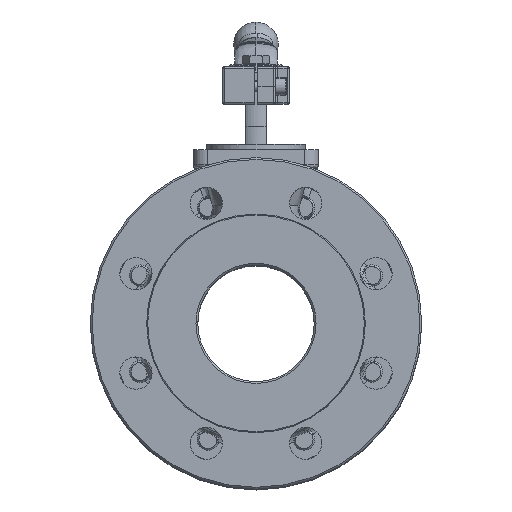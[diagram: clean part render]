
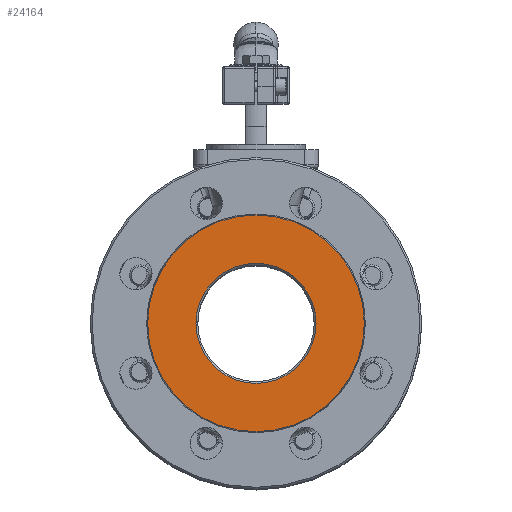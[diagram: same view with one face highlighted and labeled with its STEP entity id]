
A CAD part, top view. The second image highlights one B-rep face of the part: STEP entity #24164.
In plain terms, the highlighted planar face has unit normal (0, 0, 1) as drawn and (0, -1, 0) by its records, which use the part's own axes.
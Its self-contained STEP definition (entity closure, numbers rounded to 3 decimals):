
#909 = DIRECTION ( 'NONE',  ( 0., 1., 0. ) ) ;
#6435 = CARTESIAN_POINT ( 'NONE',  ( 0., -55.25, -3.75 ) ) ;
#9954 = DIRECTION ( 'NONE',  ( -1., 0., 0. ) ) ;
#10449 = DIRECTION ( 'NONE',  ( 0., 1., 0. ) ) ;
#12065 = CARTESIAN_POINT ( 'NONE',  ( 60.464, -55.25, -3.75 ) ) ;
#12964 = ORIENTED_EDGE ( 'NONE', *, *, #24156, .T. ) ;
#13427 = CARTESIAN_POINT ( 'NONE',  ( -33.5, -55.25, -3.75 ) ) ;
#14973 = DIRECTION ( 'NONE',  ( 0., 1., 0. ) ) ;
#16075 = FACE_OUTER_BOUND ( 'NONE', #37484, .T. ) ;
#16181 = EDGE_LOOP ( 'NONE', ( #36096, #12964 ) ) ;
#17096 = CIRCLE ( 'NONE', #20639, 33.5 ) ;
#17428 = PLANE ( 'NONE',  #29907 ) ;
#19565 = CARTESIAN_POINT ( 'NONE',  ( -60.464, -55.25, -3.75 ) ) ;
#19803 = EDGE_CURVE ( 'NONE', #37648, #20876, #24771, .T. ) ;
#20639 = AXIS2_PLACEMENT_3D ( 'NONE', #31162, #10449, #34592 ) ;
#20758 = CARTESIAN_POINT ( 'NONE',  ( 0., -55.25, -33.982 ) ) ;
#20876 = VERTEX_POINT ( 'NONE', #12065 ) ;
#20903 = DIRECTION ( 'NONE',  ( 0., 0., -1. ) ) ;
#21795 = CARTESIAN_POINT ( 'NONE',  ( 0., -55.25, -3.75 ) ) ;
#21823 = ORIENTED_EDGE ( 'NONE', *, *, #24819, .F. ) ;
#22547 = AXIS2_PLACEMENT_3D ( 'NONE', #35583, #14973, #39070 ) ;
#24156 = EDGE_CURVE ( 'NONE', #41887, #39996, #17096, .T. ) ;
#24164 = ADVANCED_FACE ( 'NONE', ( #33307, #16075 ), #17428, .T. ) ;
#24771 = CIRCLE ( 'NONE', #22547, 60.464 ) ;
#24819 = EDGE_CURVE ( 'NONE', #20876, #37648, #25717, .T. ) ;
#25239 = DIRECTION ( 'NONE',  ( 1., 0., 0. ) ) ;
#25366 = CIRCLE ( 'NONE', #37368, 33.5 ) ;
#25717 = CIRCLE ( 'NONE', #31337, 60.464 ) ;
#29907 = AXIS2_PLACEMENT_3D ( 'NONE', #20758, #41562, #20903 ) ;
#30663 = DIRECTION ( 'NONE',  ( 0., 1., 0. ) ) ;
#30779 = ORIENTED_EDGE ( 'NONE', *, *, #19803, .F. ) ;
#31162 = CARTESIAN_POINT ( 'NONE',  ( 0., -55.25, -3.75 ) ) ;
#31337 = AXIS2_PLACEMENT_3D ( 'NONE', #6435, #30663, #9954 ) ;
#32397 = CARTESIAN_POINT ( 'NONE',  ( 33.5, -55.25, -3.75 ) ) ;
#33307 = FACE_BOUND ( 'NONE', #16181, .T. ) ;
#34592 = DIRECTION ( 'NONE',  ( 1., 0., 0. ) ) ;
#35583 = CARTESIAN_POINT ( 'NONE',  ( 0., -55.25, -3.75 ) ) ;
#36096 = ORIENTED_EDGE ( 'NONE', *, *, #38050, .T. ) ;
#37368 = AXIS2_PLACEMENT_3D ( 'NONE', #21795, #909, #25239 ) ;
#37484 = EDGE_LOOP ( 'NONE', ( #30779, #21823 ) ) ;
#37648 = VERTEX_POINT ( 'NONE', #19565 ) ;
#38050 = EDGE_CURVE ( 'NONE', #39996, #41887, #25366, .T. ) ;
#39070 = DIRECTION ( 'NONE',  ( -1., 0., 0. ) ) ;
#39996 = VERTEX_POINT ( 'NONE', #32397 ) ;
#41562 = DIRECTION ( 'NONE',  ( 0., -1., 0. ) ) ;
#41887 = VERTEX_POINT ( 'NONE', #13427 ) ;
